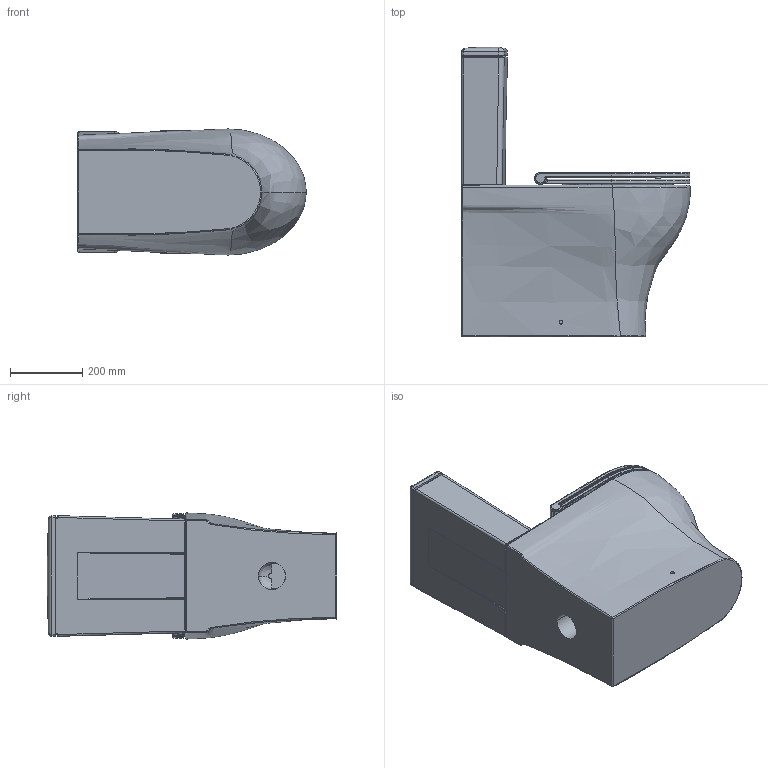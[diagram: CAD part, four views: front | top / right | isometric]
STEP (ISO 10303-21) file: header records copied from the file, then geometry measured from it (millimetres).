
FILE_DESCRIPTION (( 'STEP AP203' ), '1' );
FILE_NAME ('PAVCMP000000.STEP', '2019-05-27T08:50:10', ( '' ), ( '' ), 'SwSTEP 2.0', 'SolidWorks 2019', '' );
FILE_SCHEMA (( 'CONFIG_CONTROL_DESIGN' ));
Length unit declared in the file: millimetre
Products named in the file (8): PRA400MBL; PRA 400 MBL cassetta; PRA1800ciambella; PRA 400 MBL coperchio; PRA1800; PRAI800coperchio; PRA100MBP; PAVCMP000000
Assembly tree (7 placements, depth 3):
  PAVCMP000000
    PRA100MBP
    PRA400MBL
      PRA 400 MBL cassetta
      PRA 400 MBL coperchio
    PRA1800
      PRAI800coperchio
      PRA1800ciambella
Bounding box: 633.26 x 803.03 x 349.68 mm (x, y, z)
Volume: 53197162.2 mm3; surface area: 2505407.5 mm2
Topology: 5 solids, 5 shells, 824 faces, 1985 edges, 1160 vertices
Faces by surface type: bspline 321, cylinder 226, torus 151, plane 101, cone 17, sphere 8
Entity records: 53864 total; most frequent: CARTESIAN_POINT 36208, ORIENTED_EDGE 3912, DIRECTION 3119, EDGE_CURVE 1956, AXIS2_PLACEMENT_3D 1343, VERTEX_POINT 1160, EDGE_LOOP 860, CIRCLE 828
